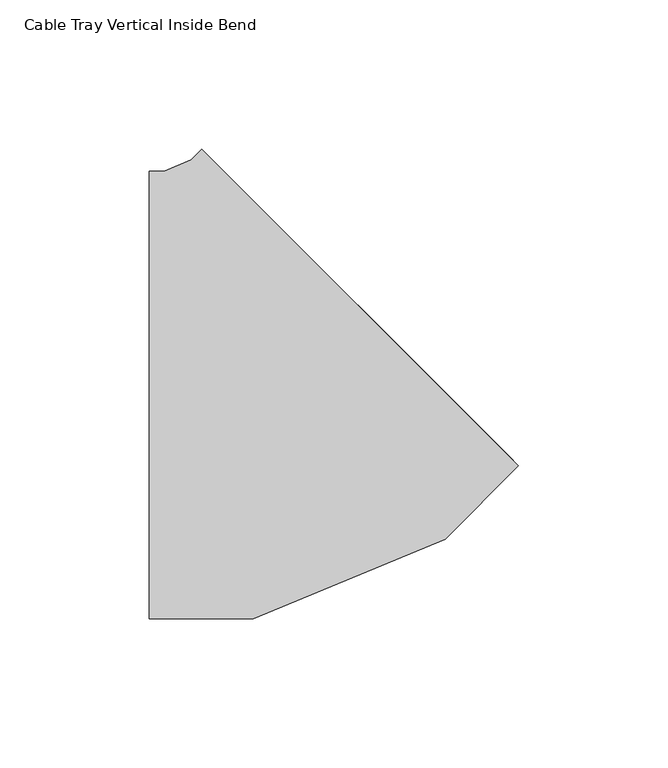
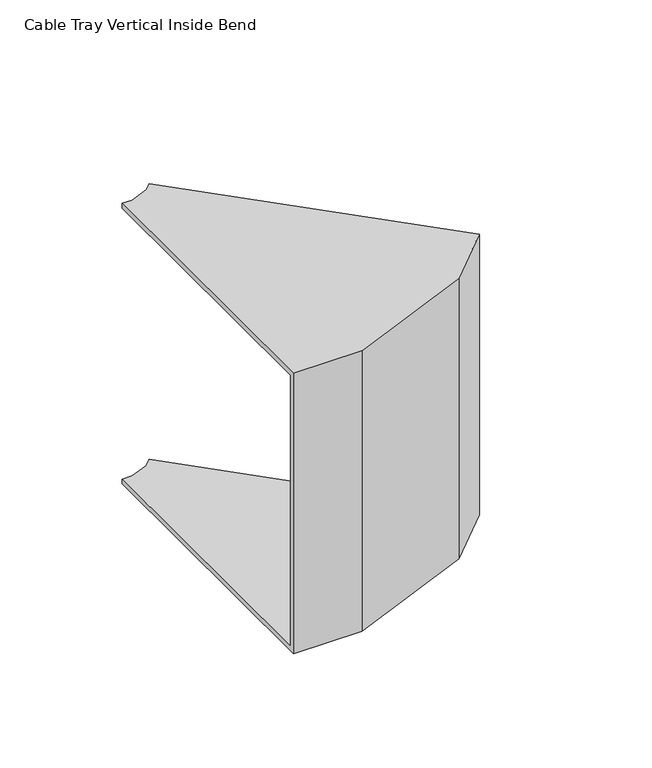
"""IFC4 building model written with IfcOpenShell, lengths in millimetres: cable carrier fitting geometry, Cable Tray Vertical Inside Bend : ELEC_ELV_TKG_N2402."""

from ifc_helpers import new_model, si_unit, origin, place, context, project, spatial, faceted_brep, source, transform, mapped, element, save


def cable_tray_vertical_inside_bend_b44fa44e(model_context):
    return source(origin(), model_context, "Body", "Brep", [
        faceted_brep([(-41.4213562, 75.0, 75.0), (-41.4213562, 75.0, 72.46), (-41.4213562, -72.46, 72.46), (-41.4213562, -72.46, -72.46), (-41.4213562, 75.0, -72.46), (-41.4213562, 75.0, -75.0), (-41.4213562, -75.0, -75.0), (-41.4213562, -75.0, 75.0), (-23.7436867, 82.3223305, 75.0), (82.3223305, -23.7436867, 75.0), (82.3223305, -23.7436867, -75.0), (-23.7436867, 82.3223305, -75.0), (-23.7436867, 82.3223305, -72.46), (80.5262793, -21.9476355, -72.46), (80.5262793, -21.9476355, 72.46), (-23.7436867, 82.3223305, 72.46), (-36.4485471, 75.0, 75.0), (-36.4485471, 75.0, 72.46), (-27.2599938, 78.8060234, 72.46), (56.2693864, -46.2045284, 72.46), (-7.1169294, -72.46, 72.46), (-7.1169294, -72.46, -72.46), (56.2693864, -46.2045284, -72.46), (-27.2599938, 78.8060234, -72.46), (-36.4485471, 75.0, -72.46), (-36.4485471, 75.0, -75.0), (-27.2599938, 78.8060234, -75.0), (57.7081808, -48.3578364, -75.0), (-6.6116919, -75.0, -75.0), (-6.6116919, -75.0, 75.0), (57.7081808, -48.3578364, 75.0), (-27.2599938, 78.8060234, 75.0)], [[[0, 1, 2, 3, 4, 5, 6, 7]], [[8, 9, 10, 11, 12, 13, 14, 15]], [[1, 0, 16, 17]], [[2, 1, 17, 18, 15, 14, 19, 20]], [[3, 2, 20, 21]], [[4, 3, 21, 22, 13, 12, 23, 24]], [[5, 4, 24, 25]], [[6, 5, 25, 26, 11, 10, 27, 28]], [[7, 6, 28, 29]], [[0, 7, 29, 30, 9, 8, 31, 16]], [[17, 16, 31, 18]], [[21, 20, 19, 22]], [[25, 24, 23, 26]], [[29, 28, 27, 30]], [[18, 31, 8, 15]], [[22, 19, 14, 13]], [[26, 23, 12, 11]], [[30, 27, 10, 9]]]),
    ])


if __name__ == "__main__":
    model = new_model("IFC4")
    model_context = context("Model", 3, world=origin())
    ifc_project = project(units=[si_unit("LENGTHUNIT", "METRE", prefix="MILLI")], contexts=[model_context])
    site = spatial("IfcSite", under=ifc_project)
    building = spatial("IfcBuilding", under=site)
    placement = place(None, origin())
    cable_tray_vertical_inside_bend_shape = cable_tray_vertical_inside_bend_b44fa44e(model_context)
    element("IfcCableCarrierFitting", 1, ObjectType="Cable Tray Vertical Inside Bend : ELEC_ELV_TKG_N2402", at=placement, inside=building, context=model_context, shape_type="MappedRepresentation", body=[
        mapped(cable_tray_vertical_inside_bend_shape, transform((0.0, 0.0, 0.0), x_axis=(1.0, 0.0, 0.0), y_axis=(0.0, 1.0, 0.0), z_axis=(0.0, 0.0, 1.0))),
    ])
    save(model, "model.ifc")
